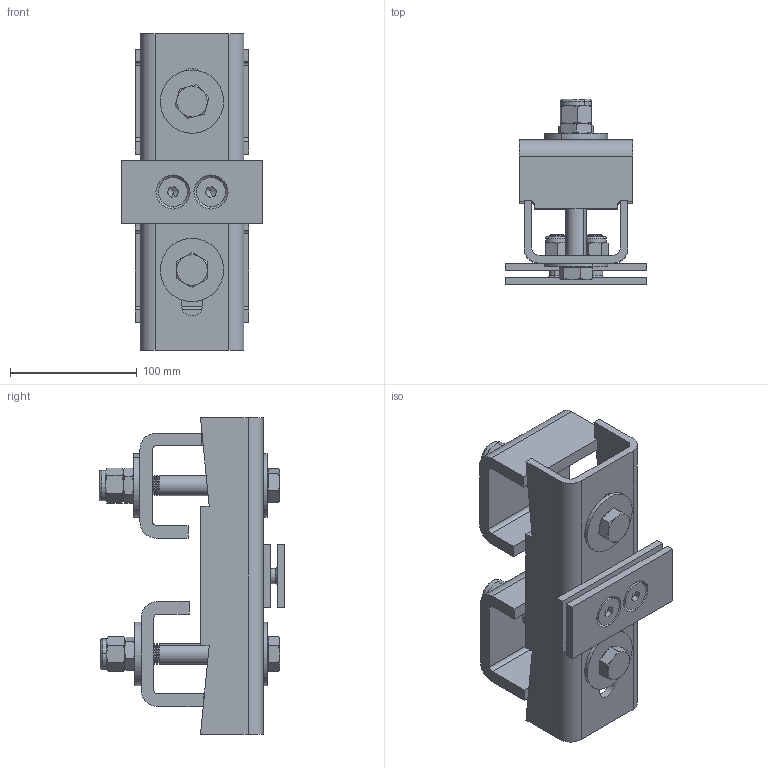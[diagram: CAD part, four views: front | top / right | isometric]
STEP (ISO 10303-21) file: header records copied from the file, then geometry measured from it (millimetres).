
FILE_DESCRIPTION (( 'STEP AP214' ), '1' );
FILE_NAME ('900.100.114.STEP', '2015-02-23T15:38:49', ( '' ), ( '' ), 'SwSTEP 2.0', 'SolidWorks 2012', '' );
FILE_SCHEMA (( 'AUTOMOTIVE_DESIGN' ));
Length unit declared in the file: millimetre
Products named in the file (13): 900.100.023; 900.100.114; 900.100.022; 900.100.002-1; 900.100.003; hex bolt gradeab_iso_ISO 4014 - M16 x 130 x 44-S; socket countersunk head screw_iso_ISO 10642 - M12 x 40 --- 40N; hex thin nut chamfered gradeab_iso_Hexagon Thin Nut ISO - 4035 - M16 - N; plain washer large_din_Washer DIN 9021 - 10.5; 900.100.024; torque nut 01_iso_ISO 7040-M16-N; torque nut 01_iso_ISO 7040-M12-N
Assembly tree (20 placements, depth 3):
  900.100.114
    900.100.022
    900.100.002-1  x2
    900.100.003  x2
    hex bolt gradeab_iso_ISO 4014 - M16 x 130 x 44-S  x2
    900.100.023
      900.100.023
      socket countersunk head screw_iso_ISO 10642 - M12 x 40 --- 40N  x2
    torque nut 01_iso_ISO 7040-M12-N  x2
    900.100.024
    plain washer large_din_Washer DIN 9021 - 10.5  x2
    hex thin nut chamfered gradeab_iso_Hexagon Thin Nut ISO - 4035 - M16 - N  x2
    torque nut 01_iso_ISO 7040-M16-N  x2
Bounding box: 112 x 146.49 x 250 mm (x, y, z)
Volume: 667758.2 mm3; surface area: 223800.1 mm2
Topology: 19 solids, 19 shells, 684 faces, 1648 edges, 1006 vertices
Faces by surface type: cone 296, cylinder 192, plane 180, torus 16
Entity records: 11766 total; most frequent: CARTESIAN_POINT 2334, DIRECTION 2014, ORIENTED_EDGE 1788, EDGE_CURVE 894, AXIS2_PLACEMENT_3D 811, VERTEX_POINT 551, CIRCLE 418, EDGE_LOOP 401
